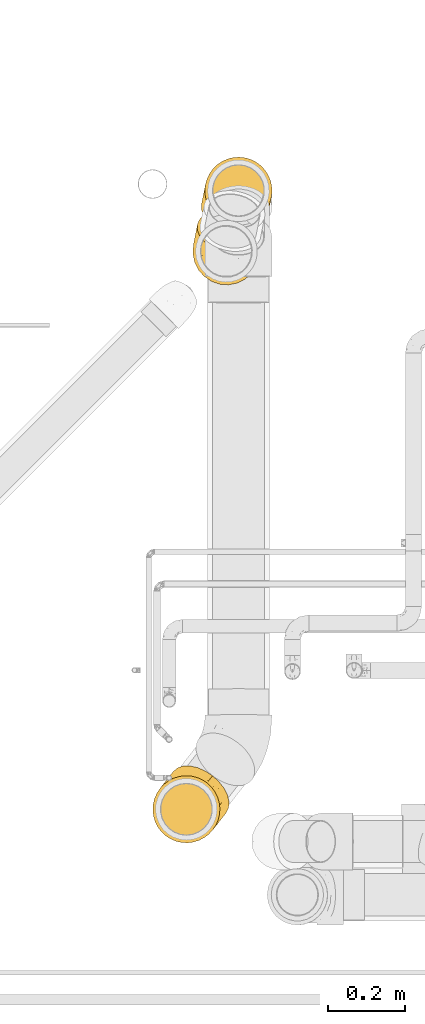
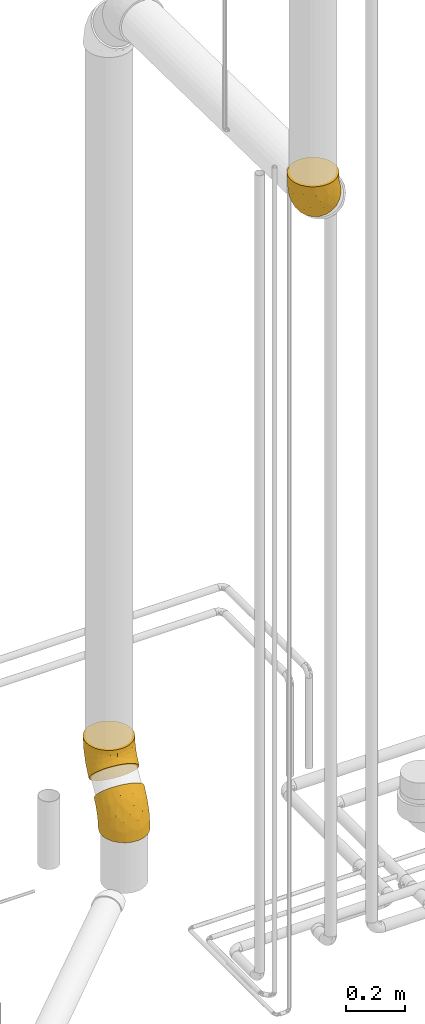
# One storey, part 25 of 156: 3 coverings.
"""IFC2X3 building model written with IfcOpenShell, lengths in millimetres."""

from ifc_helpers import new_model, entity, si_unit, converted_unit, derived_unit, direction, frame, origin_with_axes, place, context, subcontext, project, spatial, open_shell, surface_model, source, transform, mapped, element, save


model = new_model("IFC2X3")

# Units and contexts
model_context = context("Model", 3, precision=0.01, world=frame((0.0, 4.29681676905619e-09, 0.0)), true_north=direction((4.01073788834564e-13, 1.0)))
plan_context = context("Plan", 3, precision=0.01, world=frame((0.0, 4.29681676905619e-09, 0.0)), true_north=direction((4.01073788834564e-13, 1.0)))
body_context = subcontext(model_context, "Body", "Model", "MODEL_VIEW")
ifc_project = project(units=[converted_unit("PLANEANGLEUNIT", "DEGREE", entity("IfcPositiveLengthMeasure", 0.0174532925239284), si_unit("PLANEANGLEUNIT", "RADIAN"), dimensions=[0, 0, 0, 0, 0, 0, 0]), si_unit("AREAUNIT", "SQUARE_METRE"), si_unit("LENGTHUNIT", "METRE", prefix="MILLI"), si_unit("MASSUNIT", "GRAM", prefix="KILO"), si_unit("POWERUNIT", "WATT"), si_unit("PRESSUREUNIT", "PASCAL", prefix="KILO"), si_unit("FORCEUNIT", "NEWTON", prefix="KILO"), si_unit("ELECTRICVOLTAGEUNIT", "VOLT"), si_unit("ELECTRICCURRENTUNIT", "AMPERE"), si_unit("THERMODYNAMICTEMPERATUREUNIT", "DEGREE_CELSIUS"), si_unit("TIMEUNIT", "SECOND"), si_unit("VOLUMEUNIT", "CUBIC_METRE"), derived_unit("LINEARVELOCITYUNIT", [(si_unit("LENGTHUNIT", "METRE"), 1), (si_unit("TIMEUNIT", "SECOND"), -1)]), derived_unit("VOLUMETRICFLOWRATEUNIT", [(si_unit("VOLUMEUNIT", "CUBIC_METRE"), 1), (si_unit("TIMEUNIT", "SECOND"), -1)]), derived_unit("THERMALTRANSMITTANCEUNIT", [(si_unit("POWERUNIT", "WATT"), 1), (si_unit("THERMODYNAMICTEMPERATUREUNIT", "KELVIN"), -1), (si_unit("AREAUNIT", "SQUARE_METRE"), -1)]), derived_unit("SOUNDPRESSUREUNIT", [(si_unit("PRESSUREUNIT", "PASCAL"), 1)])], contexts=[model_context, plan_context])

# Site, building, storey
site_placement = place(None, frame((0.0, -4.29681676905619e-09, 0.0), z_axis=(0.0, 0.0, 1.0), x_axis=(1.0, 0.0, 0.0)))
site = spatial("IfcSite", under=ifc_project, at=site_placement, CompositionType="ELEMENT")
building_placement = place(site_placement, frame((0.0, 4.29681676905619e-09, 0.0), z_axis=(0.0, 0.0, 1.0), x_axis=(1.0, 0.0, 0.0)))
building = spatial("IfcBuilding", under=site, at=building_placement, Name="mc-building", CompositionType="ELEMENT")
storey_placement = place(building_placement, frame((0.0, 0.0, 205200.0), z_axis=(0.0, 0.0, 1.0), x_axis=(1.0, 0.0, 0.0)))
storey = spatial("IfcBuildingStorey", under=building, at=storey_placement, Name="Nivå D + 1,2 m", CompositionType="ELEMENT", Elevation=205200.0)

# Coverings
shared_shape_1 = source(origin_with_axes(), body_context, "Body", "SurfaceModel", [
    surface_model("IfcShellBasedSurfaceModel", [(-18.5009, 105.96634, 29.84685), (-13.55834, 101.85531, 43.63085), (-21.52825, 108.48437, 15.15456), (-22.54784, 109.33243, 0.0), (-6.85107, 96.27647, 56.08822), (110.59089, -1.40714, -15.15456), (10.98724, 81.43926, -75.55734), (1.41698, 89.39943, 66.84099), (10.99463, 81.43312, 75.56289), (21.59108, 72.6194, 81.98922), (-18.50327, 105.96831, -29.83841), (-21.52902, 108.48501, -15.14884), (-6.85707, 96.28147, -56.07891), (-13.5626, 101.85886, -43.62124), (1.40982, 89.40539, -66.83318), (32.88026, 63.22951, -85.92382), (21.5846, 72.6248, -81.98615), (44.53132, 53.53862, -87.25), (67.47804, 34.45243, 81.98615), (32.88466, 63.22585, 85.92482), (44.53132, 53.53862, 87.25), (56.18238, 43.84772, 85.92382), (78.07539, 25.63797, 75.55734), (95.91972, 10.79577, 56.07891), (102.62524, 5.21837, 43.62124), (107.56591, 1.10892, 29.83841), (87.65282, 17.67185, 66.83318), (110.59166, -1.40778, 15.14884), (95.9137, 10.80076, -56.08822), (87.64566, 17.6778, -66.84099), (78.06801, 25.64412, -75.56289), (67.47155, 34.45783, -81.98922), (56.17798, 43.85138, -85.92482), (102.62098, 5.22192, -43.63085), (107.56355, 1.11089, -29.84685), (111.61047, -2.25519, 0.0), (-69.63779, 84.27703, -22.58196), (-69.63779, 61.69507, 61.69507), (-69.63779, 87.25, 0.0), (-69.63779, 61.69507, -61.69507), (-69.63779, 75.56072, -43.625), (-69.63779, 43.625, -75.56072), (-69.63779, 22.58196, -84.27703), (-69.63779, 84.27703, 22.58196), (-69.63779, 75.56072, 43.625), (-69.63779, 22.58196, 84.27703), (-69.63779, 43.625, 75.56072), (-69.63779, 0.0, 87.25), (-69.63779, -22.58196, -84.27703), (-69.63779, -61.69507, -61.69507), (-69.63779, -43.625, -75.56072), (-69.63779, -84.27703, -22.58196), (-69.63779, -75.56072, -43.625), (-69.63779, -22.58196, 84.27703), (-69.63779, -43.625, 75.56072), (-69.63779, -75.56072, 43.625), (-69.63779, -61.69507, 61.69507), (-69.63779, -87.25, 0.0), (-69.63779, -84.27703, 22.58196), (-69.63779, 0.0, -87.25), (16.52244, -44.0246, 60.95651), (11.11641, -23.70134, 76.64203), (-20.83918, -49.25887, 67.5763), (-18.36348, -81.60651, 0.0), (-31.26451, -81.45213, 21.21322), (4.84653, -71.49172, 24.43322), (30.45598, -64.94624, 0.0), (52.57473, -51.01758, 17.52143), (29.55998, 5.04064, 83.31234), (-24.78806, -65.67806, 51.64458), (46.9902, -1.37918, 76.7969), (67.16181, -34.2009, 35.41196), (24.6468, -52.55618, 46.91111), (-30.62432, -34.48777, 78.24684), (-17.88343, -15.48066, 84.03852), (12.32146, 24.66571, 87.25), (-26.84259, 6.30007, 87.25), (-28.74651, -75.74524, 36.07448), (74.48326, -38.06684, 0.0), (83.90907, -26.85669, 21.41659), (54.41681, -23.36414, 59.87867), (-28.6792, 33.77412, 83.07006), (9.66321, 45.41973, 85.27795), (-27.8338, 59.35569, 71.47388), (-50.51116, 55.05173, 69.22008), (-48.27169, 88.84515, 19.09747), (-43.63252, 93.04472, 0.0), (-54.84916, 90.54533, 0.0), (-3.71875, 58.41163, 79.07691), (-39.48549, 85.96208, 36.87919), (-31.4684, 96.84877, 22.58668), (-25.88418, 92.52373, 40.17019), (-34.011, 71.15915, 59.99669), (-18.37574, 78.44256, 61.69936), (-49.37162, 71.85414, 53.11443), (-55.12205, 81.27523, 35.44493), (-33.09018, 101.18857, 0.0), (-33.99846, 95.07394, -22.57953), (-36.93401, 78.7613, -50.04045), (-52.58114, 82.78602, -33.38913), (-48.42596, 89.27589, -16.92926), (-53.74065, 70.83027, -53.11443), (-22.24551, 47.43974, -79.07267), (-46.55552, 35.72712, -80.60849), (-45.67431, 56.17363, -69.22008), (-3.7421, 63.05856, -77.22843), (-24.00329, 89.32847, -46.58073), (-47.04481, 15.41324, -86.19783), (-24.57421, 27.26376, -85.12035), (4.71506, 46.88396, -84.27577), (12.32146, 24.66571, -87.25), (-26.84259, 6.30007, -87.25), (-18.38081, 78.4495, -61.69077), (-32.68697, 67.96149, -63.44924), (11.11029, -23.69487, -76.64663), (-17.8872, -15.47177, -84.04121), (29.55614, 5.04652, -83.31453), (83.90813, -26.85454, -21.42541), (52.57434, -51.0167, -17.5261), (67.15802, -34.19882, -35.42083), (54.41018, -23.35897, -59.88723), (46.98414, -1.37554, -76.80045), (4.84589, -71.49038, -24.43828), (-20.82986, -49.25698, -67.57598), (-31.26346, -81.45168, -21.21432), (-24.79305, -65.67899, -51.64474), (-28.74919, -75.74501, -36.07604), (-30.63316, -34.48049, -78.25126), (24.64211, -52.55185, -46.92037), (20.06742, -35.78336, -66.52193)], [open_shell([[[0, 1, 2]], [[3, 2, 1]], [[1, 4, 3]], [[3, 5, 6]], [[4, 7, 8]], [[4, 8, 9]], [[3, 4, 9]], [[9, 5, 3]], [[10, 11, 12]], [[12, 13, 10]], [[11, 6, 12]], [[14, 12, 6]], [[6, 15, 16]], [[17, 15, 5]], [[3, 6, 11]], [[15, 6, 5]], [[18, 9, 19]], [[20, 21, 18]], [[22, 9, 18]], [[9, 22, 5]], [[23, 24, 22]], [[5, 24, 25]], [[24, 5, 22]], [[22, 26, 23]], [[25, 27, 5]], [[28, 29, 30]], [[28, 30, 31]], [[32, 17, 31]], [[5, 28, 31]], [[5, 33, 28]], [[33, 5, 34]], [[5, 31, 17]], [[27, 35, 5]], [[18, 19, 20]], [[36, 37, 38]], [[39, 36, 40]], [[37, 36, 41]], [[41, 36, 39]], [[37, 41, 42]], [[43, 37, 44]], [[43, 38, 37]], [[37, 45, 46]], [[42, 45, 37]], [[42, 47, 45]], [[42, 48, 47]], [[48, 49, 47]], [[49, 48, 50]], [[51, 47, 52]], [[47, 49, 52]], [[53, 47, 51]], [[54, 55, 56]], [[57, 54, 53]], [[55, 57, 58]], [[57, 55, 54]], [[53, 51, 57]], [[48, 42, 59]], [[60, 61, 62]], [[57, 63, 64]], [[65, 63, 66]], [[67, 65, 66]], [[21, 68, 18]], [[55, 69, 56]], [[70, 26, 22]], [[71, 72, 65]], [[53, 54, 73]], [[74, 73, 61]], [[74, 75, 76]], [[21, 75, 68]], [[54, 56, 62]], [[47, 53, 74]], [[61, 68, 74]], [[64, 77, 58]], [[61, 73, 62]], [[72, 69, 77]], [[67, 66, 78]], [[71, 67, 79]], [[80, 71, 23]], [[71, 24, 23]], [[25, 71, 79]], [[27, 78, 35]], [[80, 70, 61]], [[69, 72, 60]], [[23, 26, 80]], [[77, 69, 55]], [[61, 70, 68]], [[20, 75, 21]], [[47, 74, 76]], [[75, 74, 68]], [[72, 71, 80]], [[70, 18, 68]], [[79, 78, 27]], [[80, 60, 72]], [[80, 26, 70]], [[69, 62, 56]], [[65, 67, 71]], [[71, 25, 24]], [[18, 70, 22]], [[64, 65, 77]], [[58, 77, 55]], [[72, 77, 65]], [[57, 64, 58]], [[63, 65, 64]], [[53, 73, 74]], [[62, 73, 54]], [[78, 79, 67]], [[25, 79, 27]], [[61, 60, 80]], [[69, 60, 62]], [[45, 76, 81]], [[45, 47, 76]], [[81, 75, 82]], [[76, 75, 81]], [[81, 83, 84]], [[46, 84, 37]], [[85, 86, 87]], [[88, 83, 81]], [[85, 89, 90]], [[87, 38, 43]], [[0, 90, 91]], [[92, 93, 91]], [[94, 89, 95]], [[85, 95, 89]], [[91, 4, 1]], [[84, 94, 37]], [[8, 88, 9]], [[81, 84, 46]], [[7, 4, 93]], [[93, 88, 7]], [[9, 88, 82]], [[8, 7, 88]], [[85, 90, 86]], [[92, 89, 94]], [[19, 82, 20]], [[87, 43, 85]], [[0, 2, 90]], [[45, 81, 46]], [[2, 96, 90]], [[82, 75, 20]], [[93, 92, 83]], [[90, 89, 91]], [[44, 37, 94]], [[88, 93, 83]], [[43, 95, 85]], [[93, 4, 91]], [[94, 95, 44]], [[95, 43, 44]], [[84, 83, 92]], [[91, 89, 92]], [[0, 91, 1]], [[9, 82, 19]], [[81, 82, 88]], [[96, 2, 3]], [[96, 86, 90]], [[84, 92, 94]], [[97, 98, 99]], [[86, 100, 87]], [[40, 101, 39]], [[97, 100, 86]], [[102, 103, 104]], [[105, 14, 6]], [[36, 38, 87]], [[106, 10, 13]], [[42, 107, 59]], [[97, 99, 100]], [[108, 109, 110]], [[108, 107, 103]], [[108, 110, 111]], [[103, 42, 41]], [[15, 110, 109]], [[101, 104, 39]], [[3, 11, 96]], [[104, 103, 41]], [[12, 14, 112]], [[112, 106, 12]], [[11, 10, 97]], [[13, 12, 106]], [[87, 100, 36]], [[98, 101, 99]], [[96, 11, 97]], [[15, 109, 16]], [[105, 16, 109]], [[40, 36, 99]], [[15, 17, 110]], [[113, 102, 104]], [[112, 113, 98]], [[102, 105, 109]], [[41, 39, 104]], [[106, 112, 98]], [[99, 101, 40]], [[105, 6, 16]], [[101, 98, 113]], [[36, 100, 99]], [[108, 103, 102]], [[109, 108, 102]], [[107, 108, 111]], [[59, 107, 111]], [[103, 107, 42]], [[98, 97, 106]], [[10, 106, 97]], [[113, 105, 102]], [[14, 105, 112]], [[97, 86, 96]], [[113, 112, 105]], [[101, 113, 104]], [[114, 115, 116]], [[117, 118, 119]], [[29, 120, 121]], [[117, 34, 5]], [[115, 110, 116]], [[111, 115, 59]], [[122, 118, 66]], [[50, 123, 49]], [[57, 51, 124]], [[121, 30, 29]], [[31, 121, 116]], [[125, 126, 52]], [[126, 51, 52]], [[123, 50, 127]], [[49, 125, 52]], [[122, 66, 63]], [[126, 128, 122]], [[127, 48, 115]], [[116, 32, 31]], [[123, 125, 49]], [[31, 30, 121]], [[129, 123, 114]], [[120, 29, 28]], [[59, 115, 48]], [[119, 122, 128]], [[114, 116, 121]], [[110, 115, 111]], [[28, 119, 120]], [[119, 128, 120]], [[28, 33, 119]], [[110, 32, 116]], [[122, 119, 118]], [[5, 35, 78]], [[129, 121, 120]], [[128, 125, 129]], [[117, 78, 118]], [[127, 115, 114]], [[33, 34, 119]], [[126, 124, 51]], [[32, 110, 17]], [[123, 129, 125]], [[66, 118, 78]], [[128, 126, 125]], [[126, 122, 124]], [[122, 63, 124]], [[57, 124, 63]], [[123, 127, 114]], [[48, 127, 50]], [[34, 117, 119]], [[78, 117, 5]], [[121, 129, 114]], [[128, 129, 120]]])]),
])
covering_1_placement = place(storey_placement, frame((324277.16577, 464258.45864, 4246.97752000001), z_axis=(-0.980682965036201, 0.195603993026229, 0.0), x_axis=(0.0, 0.0, 1.0)))
element("IfcCovering", 1, at=covering_1_placement, inside=storey, Name="BI17T - Cellegummi 13 mm SPV fett", PredefinedType="INSULATION", context=body_context, shape_type="MappedRepresentation", body=[
    mapped(shared_shape_1, transform((0.0, 0.0, 0.0), scale=1.0)),
])
shared_shape_2 = source(origin_with_axes(), body_context, "Body", "SurfaceModel", [
    surface_model("IfcShellBasedSurfaceModel", [(-6.85107, 96.27647, 56.08822), (1.41698, 89.39943, 66.84099), (10.99463, 81.43312, 75.56289), (1.40982, 89.40539, -66.83318), (-6.85707, 96.28147, -56.07891), (10.98724, 81.43926, -75.55734), (32.88026, 63.22951, -85.92382), (21.5846, 72.6248, -81.98615), (44.53132, 53.53862, 87.25), (56.18238, 43.84772, 85.92382), (67.47804, 34.45243, 81.98615), (56.17798, 43.85138, -85.92482), (44.53132, 53.53862, -87.25), (67.47155, 34.45783, -81.98922), (102.62098, 5.22192, -43.63085), (110.59089, -1.40714, -15.15456), (107.56355, 1.11089, -29.84685), (110.59166, -1.40778, 15.14884), (111.61047, -2.25519, 0.0), (-69.63779, 84.27703, -22.58196), (-69.63779, 61.69507, 61.69507), (-69.63779, 87.25, 0.0), (-69.63779, 61.69507, -61.69507), (-69.63779, 75.56072, -43.625), (-69.63779, 43.625, -75.56072), (-69.63779, 22.58196, -84.27703), (-69.63779, 22.58196, 84.27703), (-69.63779, 43.625, 75.56072), (-69.63779, 0.0, 87.25), (-69.63779, -22.58196, -84.27703), (-69.63779, -61.69507, -61.69507), (-69.63779, -43.625, -75.56072), (-69.63779, -75.56072, -43.625), (-69.63779, -43.625, 75.56072), (-69.63779, -75.56072, 43.625), (-69.63779, -61.69507, 61.69507), (-69.63779, -87.25, 0.0), (-69.63779, -22.58196, 84.27703), (-69.63779, -84.27703, 22.58196), (-69.63779, -84.27703, -22.58196), (-69.63779, 0.0, -87.25), (16.52244, -44.0246, 60.95651), (11.11641, -23.70134, 76.64203), (-20.83918, -49.25887, 67.5763), (-18.36348, -81.60651, 0.0), (-31.26451, -81.45213, 21.21322), (4.84653, -71.49172, 24.43322), (30.45598, -64.94624, 0.0), (52.57473, -51.01758, 17.52143), (29.55998, 5.04064, 83.31234), (-24.78806, -65.67806, 51.64458), (46.9902, -1.37918, 76.7969), (87.65282, 17.67185, 66.83318), (78.07539, 25.63797, 75.55734), (67.16181, -34.2009, 35.41196), (24.6468, -52.55618, 46.91111), (-30.62432, -34.48777, 78.24684), (-17.88343, -15.48066, 84.03852), (12.32146, 24.66571, 87.25), (-26.84259, 6.30007, 87.25), (-28.74651, -75.74524, 36.07448), (74.48326, -38.06684, 0.0), (83.90907, -26.85669, 21.41659), (54.41681, -23.36414, 59.87867), (95.91972, 10.79577, 56.07891), (102.62524, 5.21837, 43.62124), (107.56591, 1.10892, 29.83841), (-28.6792, 33.77412, 83.07006), (9.66321, 45.41973, 85.27795), (-27.8338, 59.35569, 71.47388), (-50.51116, 55.05173, 69.22008), (-48.27169, 88.84515, 19.09747), (-43.63252, 93.04472, 0.0), (-54.84916, 90.54533, 0.0), (-3.71875, 58.41163, 79.07691), (-39.48549, 85.96208, 36.87919), (-31.4684, 96.84877, 22.58668), (-69.63779, 84.27703, 22.58196), (-18.5009, 105.96634, 29.84685), (-25.88418, 92.52373, 40.17019), (-34.011, 71.15915, 59.99669), (-18.37574, 78.44256, 61.69936), (-49.37162, 71.85414, 53.11443), (-55.12205, 81.27523, 35.44493), (-13.55834, 101.85531, 43.63085), (21.59108, 72.6194, 81.98922), (32.88466, 63.22585, 85.92482), (-21.52825, 108.48437, 15.15456), (-33.09018, 101.18857, 0.0), (-69.63779, 75.56072, 43.625), (-22.54784, 109.33243, 0.0), (-33.99846, 95.07394, -22.57953), (-36.93401, 78.7613, -50.04045), (-52.58114, 82.78602, -33.38913), (-48.42596, 89.27589, -16.92926), (-53.74065, 70.83027, -53.11443), (-22.24551, 47.43974, -79.07267), (-46.55552, 35.72712, -80.60849), (-45.67431, 56.17363, -69.22008), (-3.7421, 63.05856, -77.22843), (-24.00329, 89.32847, -46.58073), (-18.50327, 105.96831, -29.83841), (-13.5626, 101.85886, -43.62124), (-47.04481, 15.41324, -86.19783), (-24.57421, 27.26376, -85.12035), (4.71506, 46.88396, -84.27577), (12.32146, 24.66571, -87.25), (-26.84259, 6.30007, -87.25), (-21.52902, 108.48501, -15.14884), (-18.38081, 78.4495, -61.69077), (-32.68697, 67.96149, -63.44924), (11.11029, -23.69487, -76.64663), (-17.8872, -15.47177, -84.04121), (29.55614, 5.04652, -83.31453), (83.90813, -26.85454, -21.42541), (52.57434, -51.0167, -17.5261), (67.15802, -34.19882, -35.42083), (87.64566, 17.6778, -66.84099), (54.41018, -23.35897, -59.88723), (46.98414, -1.37554, -76.80045), (4.84589, -71.49038, -24.43828), (-20.82986, -49.25698, -67.57598), (-31.26346, -81.45168, -21.21432), (78.06801, 25.64412, -75.56289), (-24.79305, -65.67899, -51.64474), (-28.74919, -75.74501, -36.07604), (-30.63316, -34.48049, -78.25126), (24.64211, -52.55185, -46.92037), (20.06742, -35.78336, -66.52193), (95.9137, 10.80076, -56.08822)], [open_shell([[[0, 1, 2]], [[3, 4, 5]], [[5, 6, 7]], [[8, 9, 10]], [[11, 12, 13]], [[14, 15, 16]], [[17, 18, 15]], [[19, 20, 21]], [[22, 19, 23]], [[20, 19, 24]], [[24, 19, 22]], [[20, 24, 25]], [[20, 26, 27]], [[25, 26, 20]], [[25, 28, 26]], [[25, 29, 28]], [[29, 30, 28]], [[30, 29, 31]], [[28, 30, 32]], [[33, 34, 35]], [[36, 33, 37]], [[34, 36, 38]], [[36, 34, 33]], [[37, 39, 36]], [[29, 25, 40]], [[41, 42, 43]], [[36, 44, 45]], [[46, 44, 47]], [[48, 46, 47]], [[9, 49, 10]], [[34, 50, 35]], [[51, 52, 53]], [[54, 55, 46]], [[37, 33, 56]], [[57, 56, 42]], [[57, 58, 59]], [[9, 58, 49]], [[33, 35, 43]], [[28, 37, 57]], [[42, 49, 57]], [[45, 60, 38]], [[42, 56, 43]], [[55, 50, 60]], [[48, 47, 61]], [[54, 48, 62]], [[63, 54, 64]], [[54, 65, 64]], [[66, 54, 62]], [[17, 61, 18]], [[63, 51, 42]], [[50, 55, 41]], [[64, 52, 63]], [[60, 50, 34]], [[42, 51, 49]], [[8, 58, 9]], [[28, 57, 59]], [[58, 57, 49]], [[55, 54, 63]], [[51, 10, 49]], [[62, 61, 17]], [[63, 41, 55]], [[63, 52, 51]], [[50, 43, 35]], [[46, 48, 54]], [[54, 66, 65]], [[10, 51, 53]], [[45, 46, 60]], [[38, 60, 34]], [[55, 60, 46]], [[36, 45, 38]], [[44, 46, 45]], [[37, 56, 57]], [[43, 56, 33]], [[61, 62, 48]], [[66, 62, 17]], [[42, 41, 63]], [[50, 41, 43]], [[26, 59, 67]], [[26, 28, 59]], [[67, 58, 68]], [[59, 58, 67]], [[67, 69, 70]], [[27, 70, 20]], [[71, 72, 73]], [[74, 69, 67]], [[71, 75, 76]], [[73, 21, 77]], [[78, 76, 79]], [[80, 81, 79]], [[82, 75, 83]], [[71, 83, 75]], [[79, 0, 84]], [[70, 82, 20]], [[2, 74, 85]], [[67, 70, 27]], [[1, 0, 81]], [[81, 74, 1]], [[85, 74, 68]], [[2, 1, 74]], [[71, 76, 72]], [[80, 75, 82]], [[86, 68, 8]], [[73, 77, 71]], [[78, 87, 76]], [[26, 67, 27]], [[87, 88, 76]], [[68, 58, 8]], [[81, 80, 69]], [[76, 75, 79]], [[89, 20, 82]], [[74, 81, 69]], [[77, 83, 71]], [[81, 0, 79]], [[82, 83, 89]], [[83, 77, 89]], [[70, 69, 80]], [[79, 75, 80]], [[78, 79, 84]], [[85, 68, 86]], [[67, 68, 74]], [[88, 87, 90]], [[88, 72, 76]], [[70, 80, 82]], [[91, 92, 93]], [[72, 94, 73]], [[23, 95, 22]], [[91, 94, 72]], [[96, 97, 98]], [[99, 3, 5]], [[19, 21, 73]], [[100, 101, 102]], [[25, 103, 40]], [[91, 93, 94]], [[104, 105, 106]], [[104, 103, 97]], [[104, 106, 107]], [[97, 25, 24]], [[6, 106, 105]], [[95, 98, 22]], [[90, 108, 88]], [[98, 97, 24]], [[4, 3, 109]], [[109, 100, 4]], [[108, 101, 91]], [[102, 4, 100]], [[73, 94, 19]], [[92, 95, 93]], [[88, 108, 91]], [[6, 105, 7]], [[99, 7, 105]], [[23, 19, 93]], [[6, 12, 106]], [[110, 96, 98]], [[109, 110, 92]], [[96, 99, 105]], [[24, 22, 98]], [[100, 109, 92]], [[93, 95, 23]], [[99, 5, 7]], [[95, 92, 110]], [[19, 94, 93]], [[104, 97, 96]], [[105, 104, 96]], [[103, 104, 107]], [[40, 103, 107]], [[97, 103, 25]], [[92, 91, 100]], [[101, 100, 91]], [[110, 99, 96]], [[3, 99, 109]], [[91, 72, 88]], [[110, 109, 99]], [[95, 110, 98]], [[111, 112, 113]], [[114, 115, 116]], [[117, 118, 119]], [[114, 16, 15]], [[112, 106, 113]], [[107, 112, 40]], [[120, 115, 47]], [[31, 121, 30]], [[36, 39, 122]], [[119, 123, 117]], [[13, 119, 113]], [[124, 125, 32]], [[125, 39, 32]], [[121, 31, 126]], [[30, 124, 32]], [[120, 47, 44]], [[125, 127, 120]], [[126, 29, 112]], [[113, 11, 13]], [[121, 124, 30]], [[13, 123, 119]], [[128, 121, 111]], [[118, 117, 129]], [[40, 112, 29]], [[116, 120, 127]], [[111, 113, 119]], [[106, 112, 107]], [[129, 116, 118]], [[116, 127, 118]], [[129, 14, 116]], [[106, 11, 113]], [[120, 116, 115]], [[15, 18, 61]], [[128, 119, 118]], [[127, 124, 128]], [[114, 61, 115]], [[126, 112, 111]], [[14, 16, 116]], [[125, 122, 39]], [[11, 106, 12]], [[121, 128, 124]], [[47, 115, 61]], [[127, 125, 124]], [[125, 120, 122]], [[120, 44, 122]], [[36, 122, 44]], [[121, 126, 111]], [[29, 126, 31]], [[16, 114, 116]], [[61, 114, 15]], [[119, 128, 111]], [[127, 128, 118]], [[90, 78, 2]], [[90, 87, 78]], [[78, 84, 0]], [[85, 86, 2]], [[90, 2, 6]], [[78, 0, 2]], [[13, 6, 2]], [[101, 108, 102]], [[6, 4, 102]], [[108, 90, 102]], [[4, 6, 5]], [[6, 102, 90]], [[6, 13, 12]], [[13, 2, 86]], [[10, 53, 8]], [[86, 53, 13]], [[66, 53, 64]], [[17, 53, 66]], [[66, 64, 65]], [[64, 53, 52]], [[13, 53, 17]], [[117, 123, 13]], [[117, 13, 129]], [[14, 13, 15]], [[14, 129, 13]], [[17, 15, 13]], [[86, 8, 53]], [[21, 89, 77]], [[21, 20, 89]], [[32, 37, 28]], [[39, 37, 32]]])]),
])
covering_2_placement = place(storey_placement, frame((324308.57539, 464415.93402, 4380.53938999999), z_axis=(0.980682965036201, -0.195603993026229, -1.38777878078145e-17), x_axis=(0.150383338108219, 0.753964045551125, 0.639470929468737)))
element("IfcCovering", 2, at=covering_2_placement, inside=storey, Name="BI17T - Cellegummi 13 mm SPV fett", PredefinedType="INSULATION", context=body_context, shape_type="MappedRepresentation", body=[
    mapped(shared_shape_2, transform((0.0, 0.0, 0.0), scale=1.0)),
])
shared_shape_3 = source(origin_with_axes(), body_context, "Body", "SurfaceModel", [
    surface_model("IfcShellBasedSurfaceModel", [(-22.8993, 109.77222, 15.15456), (-19.80634, 107.33525, 29.84685), (-7.90403, 97.95723, 56.08822), (-22.90009, 109.77285, -15.14884), (-23.94099, 110.593, 0.0), (-14.75666, 103.35652, 43.63085), (112.08318, 3.41746, -15.15456), (0.54321, 91.30152, 66.84099), (10.32844, 83.59159, 75.56289), (21.15454, 75.06154, 81.98922), (-14.76102, 103.35995, -43.62124), (-19.80876, 107.33714, -29.83841), (88.64068, 21.88817, -66.84099), (-7.91016, 97.96206, -56.07891), (10.32089, 83.59754, -75.55734), (0.5359, 91.30728, -66.83318), (21.14791, 75.06676, -81.98615), (56.49102, 47.21938, -85.92482), (32.68838, 65.97385, -85.92382), (44.59195, 56.59484, -87.25), (32.69287, 65.97031, 85.92482), (44.59195, 56.59484, 87.25), (56.49551, 47.21584, 85.92382), (78.863, 29.59215, 75.55734), (68.03598, 38.12293, 81.98615), (97.09406, 15.22763, 56.07891), (108.99265, 5.85254, 29.83841), (103.94491, 9.82973, 43.62124), (88.648, 21.88241, 66.83318), (112.08398, 3.41684, 15.14884), (78.85545, 29.5981, -75.56289), (68.02936, 38.12815, -81.98922), (103.94055, 9.83317, -43.63085), (97.08791, 15.23246, -56.08822), (108.99023, 5.85444, -29.84685), (113.12487, 2.5967, 0.0), (-72.05149, 84.27703, -22.58196), (-72.05149, 61.69507, 61.69507), (-72.05149, 87.25, 0.0), (-72.05149, 61.69507, -61.69507), (-72.05149, 75.56072, -43.625), (-72.05149, 43.625, -75.56072), (-72.05149, 22.58196, -84.27703), (-72.05149, 75.56072, 43.625), (-72.05149, 84.27703, 22.58196), (-72.05149, 22.58196, 84.27703), (-72.05149, 43.625, 75.56072), (-72.05149, 0.0, 87.25), (-72.05149, 0.0, -87.25), (-72.05149, -22.58196, -84.27703), (-72.05149, -87.25, 0.0), (-72.05149, -61.69507, -61.69507), (-72.05149, -43.625, -75.56072), (-72.05149, -75.56072, -43.625), (-72.05149, -84.27703, -22.58196), (-72.05149, -43.625, 75.56072), (-72.05149, -75.56072, 43.625), (-72.05149, -61.69507, 61.69507), (-72.05149, -22.58196, 84.27703), (-72.05149, -84.27703, 22.58196), (46.79254, 3.04369, 77.88089), (-19.25497, -81.26203, 0.0), (-32.31444, -81.47624, 20.18077), (4.6122, -70.77591, 24.32243), (30.85953, -63.6023, 0.0), (53.45934, -48.97157, 17.4711), (-22.22243, -49.11002, 67.49041), (-25.6338, -65.41727, 51.54657), (11.10225, -22.87825, 76.48339), (16.77258, 3.34871, 84.51553), (16.90866, -42.5228, 61.16394), (-23.34418, -20.38775, 82.87853), (-38.79472, 3.77185, 87.25), (-25.4959, -36.04275, 76.57197), (24.94084, -51.40164, 46.71637), (-30.58409, -75.80078, 35.72298), (68.52656, -31.35541, 35.33092), (85.20272, -23.68402, 20.99183), (-7.22737, 14.8958, 87.25), (75.74622, -35.1679, 0.0), (36.14121, -54.17167, 31.8162), (55.52325, -20.88704, 59.77738), (21.04696, 32.80675, 87.25), (-52.25917, 55.19046, 69.22008), (-50.93316, 72.08455, 53.11443), (-31.41576, 33.18459, 83.21254), (-2.42361, 38.58504, 85.29052), (-35.1746, 71.99549, 59.75972), (-19.35558, 79.51461, 61.69936), (-26.84134, 93.67985, 40.19036), (-4.28862, 59.7902, 79.07691), (-29.07091, 59.91698, 71.47388), (-50.26704, 88.92254, 19.4051), (-40.28536, 86.76616, 36.87919), (-32.53917, 97.8687, 22.58668), (-45.31427, 93.39389, 0.0), (-57.29228, 90.64149, 0.0), (-55.12694, 81.49868, 36.18192), (-50.95686, 39.93965, 78.58408), (-61.61639, 86.8419, 14.91851), (-34.62763, 101.99344, 0.0), (-35.73925, 101.09892, 0.0), (-30.91072, 99.18527, -22.57953), (-54.84569, 87.98376, -16.96207), (-43.17981, 92.00172, -19.46006), (-54.45012, 82.92982, -33.38913), (-47.7939, 61.38376, -65.11906), (-54.13544, 71.27099, -53.11443), (-25.24004, 96.94048, -37.33129), (-35.64071, 89.39146, -36.8701), (-38.79472, 3.77185, -87.25), (-33.83199, 70.56656, -61.69077), (-13.51057, 53.46231, -79.07267), (8.60683, 51.81288, -84.27576), (-9.80773, 39.0241, -84.28118), (-42.83705, 48.72025, -75.03014), (-30.03116, 29.25538, -84.41301), (21.04696, 32.80675, -87.25), (-7.22737, 14.8958, -87.25), (-16.91923, 81.45686, -61.69077), (2.67028, 66.19902, -78.85665), (52.02458, 8.07445, -78.1044), (45.63374, -53.73019, -17.48286), (81.67062, -26.61306, -21.68201), (6.04558, -72.61246, -14.72073), (-7.97273, -72.18569, -31.66691), (-12.65895, -11.82513, -84.30626), (25.79435, 12.41894, -85.13232), (16.20081, -57.11714, -44.14809), (-22.83268, -65.07027, -51.17178), (21.86493, -43.11753, -58.31944), (-29.08972, -33.4678, -78.31077), (-33.75481, -82.63578, -15.91094), (-24.27562, -49.52299, -67.56474), (22.69585, -15.80289, -76.92902), (62.13667, -15.30945, -60.09511), (54.50708, -41.73863, -34.84418)], [open_shell([[[0, 1, 2]], [[0, 3, 4]], [[2, 1, 5]], [[2, 6, 0]], [[7, 8, 9]], [[7, 9, 2]], [[0, 6, 10]], [[6, 2, 9]], [[11, 3, 10]], [[10, 3, 0]], [[12, 13, 10]], [[14, 15, 16]], [[16, 17, 18]], [[19, 18, 17]], [[13, 12, 15]], [[12, 16, 15]], [[9, 20, 21]], [[21, 22, 23]], [[24, 23, 22]], [[23, 6, 9]], [[23, 25, 6]], [[25, 26, 6]], [[26, 25, 27]], [[25, 23, 28]], [[26, 29, 6]], [[12, 30, 17]], [[31, 17, 30]], [[17, 16, 12]], [[32, 12, 6]], [[32, 33, 12]], [[32, 6, 34]], [[6, 12, 10]], [[29, 35, 6]], [[23, 9, 21]], [[36, 37, 38]], [[39, 36, 40]], [[37, 36, 41]], [[41, 36, 39]], [[37, 41, 42]], [[38, 43, 44]], [[38, 37, 43]], [[37, 45, 46]], [[42, 45, 37]], [[42, 47, 45]], [[42, 48, 47]], [[49, 50, 48]], [[51, 49, 52]], [[50, 49, 53]], [[53, 49, 51]], [[50, 53, 54]], [[55, 56, 57]], [[55, 58, 48]], [[56, 50, 59]], [[50, 56, 55]], [[48, 50, 55]], [[48, 58, 47]], [[60, 28, 23]], [[50, 61, 62]], [[63, 61, 64]], [[65, 63, 64]], [[55, 57, 66]], [[56, 67, 57]], [[68, 60, 69]], [[70, 68, 66]], [[71, 72, 58]], [[66, 68, 73]], [[74, 67, 75]], [[76, 65, 77]], [[71, 78, 72]], [[72, 47, 58]], [[71, 68, 69]], [[22, 69, 24]], [[71, 73, 68]], [[62, 63, 75]], [[65, 64, 79]], [[80, 63, 65]], [[81, 76, 25]], [[76, 27, 25]], [[77, 79, 29]], [[81, 28, 60]], [[26, 76, 77]], [[29, 79, 35]], [[73, 58, 55]], [[71, 69, 78]], [[62, 75, 59]], [[65, 76, 80]], [[82, 22, 21]], [[78, 69, 82]], [[81, 60, 68]], [[25, 28, 81]], [[69, 22, 82]], [[60, 23, 24]], [[75, 67, 56]], [[81, 70, 74]], [[74, 76, 81]], [[67, 66, 57]], [[67, 74, 70]], [[76, 26, 27]], [[59, 75, 56]], [[69, 60, 24]], [[74, 75, 63]], [[50, 62, 59]], [[61, 63, 62]], [[79, 77, 65]], [[26, 77, 29]], [[76, 74, 80]], [[74, 63, 80]], [[58, 73, 71]], [[55, 66, 73]], [[68, 70, 81]], [[67, 70, 66]], [[83, 84, 37]], [[45, 47, 72]], [[85, 72, 78]], [[86, 85, 78]], [[87, 88, 89]], [[46, 83, 37]], [[45, 72, 85]], [[90, 91, 85]], [[92, 93, 94]], [[92, 95, 96]], [[1, 94, 89]], [[92, 94, 95]], [[93, 92, 97]], [[84, 93, 97]], [[89, 2, 5]], [[88, 87, 91]], [[86, 78, 82]], [[83, 91, 87]], [[88, 90, 7]], [[90, 8, 7]], [[9, 90, 86]], [[20, 82, 21]], [[91, 83, 98]], [[87, 93, 84]], [[85, 86, 90]], [[96, 99, 92]], [[7, 2, 88]], [[45, 85, 98]], [[90, 88, 91]], [[2, 89, 88]], [[0, 100, 94]], [[43, 37, 84]], [[20, 86, 82]], [[93, 89, 94]], [[86, 20, 9]], [[0, 94, 1]], [[97, 44, 43]], [[90, 9, 8]], [[98, 83, 46]], [[38, 44, 99]], [[97, 92, 99]], [[43, 84, 97]], [[89, 93, 87]], [[1, 89, 5]], [[45, 98, 46]], [[91, 98, 85]], [[100, 0, 4]], [[100, 95, 94]], [[83, 87, 84]], [[38, 99, 96]], [[97, 99, 44]], [[101, 3, 102]], [[103, 95, 104]], [[36, 105, 40]], [[101, 104, 95]], [[106, 39, 107]], [[108, 11, 10]], [[103, 104, 105]], [[107, 105, 109]], [[48, 42, 110]], [[107, 109, 111]], [[112, 113, 114]], [[115, 112, 116]], [[114, 117, 118]], [[116, 42, 115]], [[18, 117, 113]], [[101, 4, 3]], [[108, 109, 102]], [[106, 107, 111]], [[119, 15, 120]], [[15, 119, 13]], [[104, 101, 102]], [[108, 13, 119]], [[102, 109, 104]], [[15, 14, 120]], [[109, 108, 119]], [[16, 18, 113]], [[119, 112, 111]], [[16, 113, 120]], [[40, 107, 39]], [[116, 114, 118]], [[18, 19, 117]], [[109, 119, 111]], [[115, 42, 41]], [[120, 113, 112]], [[110, 116, 118]], [[110, 42, 116]], [[111, 112, 115]], [[102, 3, 11]], [[105, 107, 40]], [[106, 41, 39]], [[109, 105, 104]], [[103, 36, 38]], [[38, 96, 103]], [[119, 120, 112]], [[16, 120, 14]], [[11, 108, 102]], [[108, 10, 13]], [[114, 113, 117]], [[116, 112, 114]], [[111, 115, 106]], [[106, 115, 41]], [[36, 103, 105]], [[95, 103, 96]], [[121, 31, 30]], [[79, 122, 123]], [[124, 125, 122]], [[126, 110, 118]], [[118, 117, 127]], [[48, 110, 49]], [[128, 129, 130]], [[131, 49, 126]], [[50, 54, 132]], [[64, 61, 124]], [[51, 129, 53]], [[128, 125, 129]], [[124, 132, 125]], [[133, 51, 52]], [[34, 6, 123]], [[125, 54, 53]], [[125, 53, 129]], [[134, 130, 133]], [[127, 117, 17]], [[122, 64, 124]], [[117, 19, 17]], [[133, 129, 51]], [[134, 126, 127]], [[127, 31, 121]], [[134, 121, 135]], [[122, 79, 64]], [[6, 79, 123]], [[121, 12, 135]], [[121, 30, 12]], [[135, 12, 33]], [[135, 136, 130]], [[32, 34, 123]], [[129, 133, 130]], [[123, 122, 136]], [[6, 35, 79]], [[135, 33, 32]], [[49, 110, 126]], [[32, 123, 136]], [[134, 135, 130]], [[135, 32, 136]], [[136, 122, 125]], [[126, 118, 127]], [[133, 52, 131]], [[134, 133, 131]], [[132, 124, 61]], [[50, 132, 61]], [[125, 132, 54]], [[49, 131, 52]], [[134, 131, 126]], [[31, 127, 17]], [[134, 127, 121]], [[130, 136, 128]], [[136, 125, 128]]])]),
])
covering_3_placement = place(storey_placement, frame((324173.14379, 462808.42883, 7714.70295000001), z_axis=(-0.787915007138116, 0.615784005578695, 0.0), x_axis=(-0.483684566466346, -0.618889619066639, 0.618890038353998)))
element("IfcCovering", 3, at=covering_3_placement, inside=storey, Name="BI17T - Cellegummi 13 mm SPV fett", PredefinedType="INSULATION", context=body_context, shape_type="MappedRepresentation", body=[
    mapped(shared_shape_3, transform((0.0, 0.0, 0.0), scale=1.0)),
])

save(model, "model.ifc")
